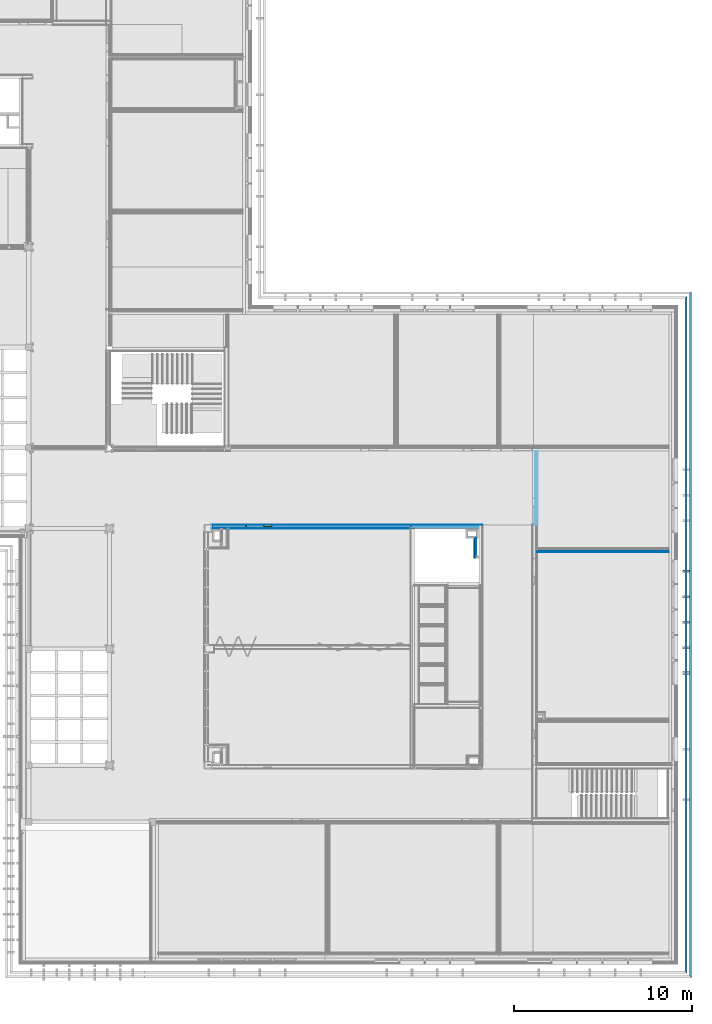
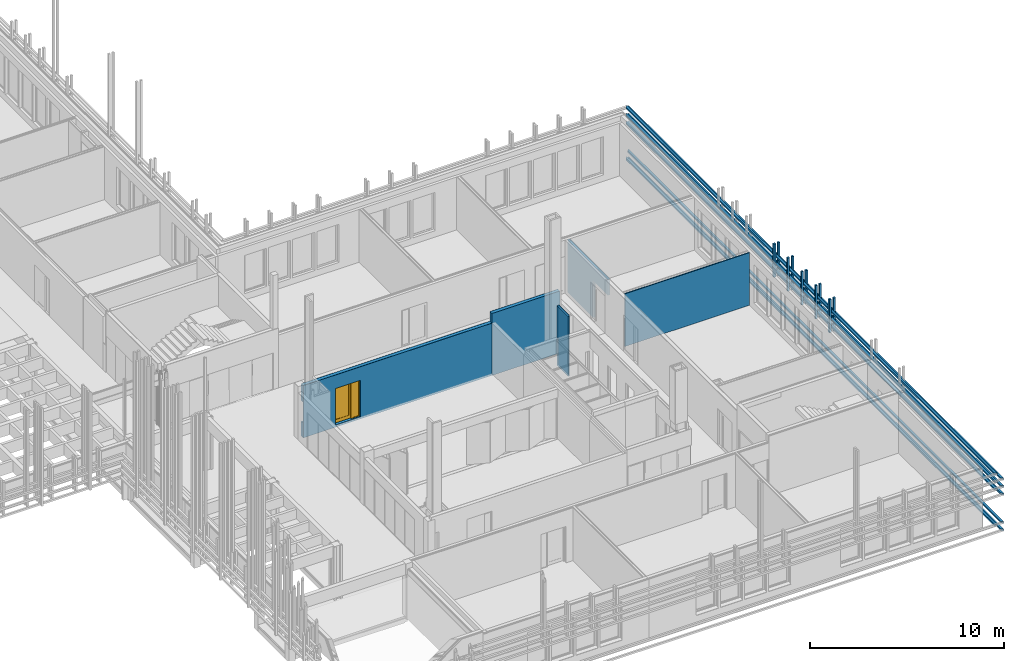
# One storey, part 120 of 139: 13 building element parts, 10 discrete accessories, 1 door, 3 openings, 5 elements without a shape of their own, plus 6 elements that do not belong to this part.
"""IFC2X3 building model written with IfcOpenShell, lengths in millimetres."""

from ifc_helpers import new_model, entity, si_unit, converted_unit, derived_unit, money_unit, direction, frame, origin_with_axes, place, context, subcontext, project, spatial, open_shell, faceted_brep, surface_model, material, material_list, type_object, element, fill, aggregate, save


model = new_model("IFC2X3")

# Units and contexts
model_context = context("Model", 3, precision=0.01, world=origin_with_axes(), true_north=direction((0.0, 1.0)))
body_context = subcontext(model_context, "Body", "Model", "MODEL_VIEW")
ifc_project = project(units=[si_unit("LENGTHUNIT", "METRE", prefix="MILLI"), si_unit("AREAUNIT", "SQUARE_METRE"), si_unit("VOLUMEUNIT", "CUBIC_METRE"), converted_unit("PLANEANGLEUNIT", "DEGREE", entity("IfcPlaneAngleMeasure", 0.0174532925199), si_unit("PLANEANGLEUNIT", "RADIAN"), dimensions=[0, 0, 0, 0, 0, 0, 0]), money_unit("EUR"), converted_unit("TIMEUNIT", "Year", entity("IfcTimeMeasure", 31556926.0), si_unit("TIMEUNIT", "SECOND"), dimensions=[0, 0, 1, 0, 0, 0, 0]), si_unit("MASSUNIT", "GRAM", prefix="KILO"), si_unit("THERMODYNAMICTEMPERATUREUNIT", "DEGREE_CELSIUS"), si_unit("LUMINOUSINTENSITYUNIT", "LUMEN"), si_unit("ENERGYUNIT", "JOULE", prefix="MEGA"), derived_unit("THERMALCONDUCTANCEUNIT", [(si_unit("POWERUNIT", "WATT"), 1), (si_unit("LENGTHUNIT", "METRE"), -1), (si_unit("THERMODYNAMICTEMPERATUREUNIT", "KELVIN"), -1)]), derived_unit("SPECIFICHEATCAPACITYUNIT", [(si_unit("ENERGYUNIT", "JOULE"), 1), (si_unit("MASSUNIT", "GRAM", prefix="KILO"), -1), (si_unit("THERMODYNAMICTEMPERATUREUNIT", "KELVIN"), -1)]), derived_unit("MASSDENSITYUNIT", [(si_unit("MASSUNIT", "GRAM", prefix="KILO"), 1), (si_unit("VOLUMEUNIT", "CUBIC_METRE"), -1)])], contexts=[model_context])

# Site, building, storey
site_placement = place(None, origin_with_axes())
site = spatial("IfcSite", under=ifc_project, at=site_placement, Name="Kolde pst 67a", CompositionType="ELEMENT")
building_placement = place(site_placement, origin_with_axes())
building = spatial("IfcBuilding", under=site, at=building_placement, Name="Riigigümnaasium", CompositionType="ELEMENT")
storey_placement = place(building_placement, frame((0.0, 0.0, 4600.0), z_axis=(0.0, 0.0, 1.0), x_axis=(1.0, 0.0, 0.0)))
storey = spatial("IfcBuildingStorey", under=building, at=storey_placement, Name="2. korrus", CompositionType="ELEMENT", Elevation=4600.0)

# Door
door_style = type_object("IfcDoorStyle", Name="Door with Sidelight on Side 2 25", ConstructionType="NOTDEFINED", OperationType="SINGLE_SWING_LEFT", ParameterTakesPrecedence=False, Sizeable=False)
wall_4_placement = place(storey_placement, frame((69744.9993636, 24239.9999727, -130.0), z_axis=(0.0, 0.0, 1.0), x_axis=(-1.0, 0.0, 0.0)))
opening_2_placement = place(wall_4_placement, frame((8555.00524137, 0.0, 130.0), z_axis=(0.0, 0.0, 1.0), x_axis=(1.0, 0.0, 0.0)))
door_placement = place(opening_2_placement, frame((750.0, 0.0, 0.0), z_axis=(0.0, 0.0, 1.0), x_axis=(-1.0, 0.0, 0.0)))
door = element("IfcDoor", 1, at=door_placement, inside=storey, type_object=door_style, Name="Siseuks", ObjectType="DOOR", OverallHeight=2300.0, OverallWidth=1500.0, context=body_context, shape_type="SurfaceModel", body=[
    faceted_brep([(1500.0, 210.0, 0.0), (1500.0, 95.0, 0.0), (1460.0, 95.0, 0.0), (1460.0, 210.0, 0.0), (1500.0, 210.0, 2260.0), (1500.0, 95.0, 2260.0), (1460.0, 95.0, 2260.0), (1460.0, 95.0, 40.0), (1460.0, 210.0, 40.0), (1460.0, 210.0, 2260.0)], [[[0, 1, 2, 3]], [[4, 5, 1, 0]], [[1, 5, 6, 7, 2]], [[3, 2, 7, 8]], [[0, 3, 8, 9, 4]], [[9, 6, 5, 4]], [[8, 7, 6, 9]]]),
    faceted_brep([(1000.0, 170.0, 0.0), (1000.0, 95.0, 0.0), (1000.0, 95.0, 2260.0), (1000.0, 170.0, 2260.0), (1012.0, 170.0, 0.0), (1012.0, 210.0, 0.0), (1040.0, 210.0, 0.0), (1040.0, 95.0, 0.0), (1040.0, 95.0, 40.0), (1040.0, 95.0, 2260.0), (1012.0, 170.0, 2260.0), (1040.0, 210.0, 2260.0), (1012.0, 210.0, 2260.0), (1040.0, 210.0, 40.0)], [[[0, 1, 2, 3]], [[4, 5, 6, 7, 1, 0]], [[7, 8, 9, 2, 1]], [[10, 3, 2, 9, 11, 12]], [[10, 4, 0, 3]], [[12, 5, 4, 10]], [[12, 11, 13, 6, 5]], [[6, 13, 8, 7]], [[13, 11, 9, 8]]]),
    faceted_brep([(1460.0, 210.0, 40.0), (1460.0, 95.0, 40.0), (1460.0, 95.0, 0.0), (1460.0, 210.0, 0.0), (1040.0, 210.0, 40.0), (1040.0, 95.0, 40.0), (1040.0, 95.0, 0.0), (1040.0, 210.0, 0.0)], [[[0, 1, 2, 3]], [[4, 5, 1, 0]], [[1, 5, 6, 2]], [[3, 2, 6, 7]], [[0, 3, 7, 4]], [[7, 6, 5, 4]]]),
    faceted_brep([(28.0, 170.0, 2260.0), (28.0, 210.0, 2260.0), (0.0, 210.0, 2260.0), (0.0, 95.0, 2260.0), (40.0, 95.0, 2260.0), (40.0, 170.0, 2260.0), (28.0, 170.0, 0.0), (28.0, 210.0, 0.0), (0.0, 210.0, 0.0), (0.0, 95.0, 0.0), (40.0, 95.0, 0.0), (40.0, 170.0, 0.0)], [[[0, 1, 2, 3, 4, 5]], [[0, 6, 7, 1]], [[7, 8, 2, 1]], [[2, 8, 9, 3]], [[3, 9, 10, 4]], [[5, 4, 10, 11]], [[5, 11, 6, 0]], [[6, 11, 10, 9, 8, 7]]]),
    faceted_brep([(1012.0, 210.0, 2272.0), (28.0, 210.0, 2272.0), (28.0, 210.0, 2260.0), (0.0, 210.0, 2260.0), (0.0, 210.0, 2300.0), (1500.0, 210.0, 2300.0), (1500.0, 210.0, 2260.0), (1460.0, 210.0, 2260.0), (1040.0, 210.0, 2260.0), (1012.0, 210.0, 2260.0), (1012.0, 170.0, 2272.0), (28.0, 170.0, 2272.0), (28.0, 170.0, 2260.0), (40.0, 170.0, 2260.0), (40.0, 95.0, 2260.0), (0.0, 95.0, 2260.0), (0.0, 95.0, 2300.0), (1500.0, 95.0, 2300.0), (1500.0, 95.0, 2260.0), (1460.0, 95.0, 2260.0), (1040.0, 95.0, 2260.0), (1012.0, 170.0, 2260.0), (1000.0, 95.0, 2260.0)], [[[0, 1, 2, 3, 4, 5, 6, 7, 8, 9]], [[0, 10, 11, 1]], [[1, 11, 12, 2]], [[12, 13, 14, 15, 3, 2]], [[4, 3, 15, 16]], [[5, 4, 16, 17]], [[6, 5, 17, 18]], [[7, 6, 18, 19]], [[8, 7, 19, 20]], [[21, 9, 8, 20, 22, 14, 13]], [[9, 21, 10, 0]], [[12, 11, 10, 21, 13]], [[14, 22, 20, 19, 18, 17, 16, 15]]]),
    faceted_brep([(28.0, 210.0, 200.0), (128.0, 210.0, 200.0), (128.0, 170.0, 200.0), (28.0, 170.0, 200.0), (28.0, 210.0, 2172.0), (128.0, 210.0, 2172.0), (128.0, 170.0, 2172.0), (28.0, 170.0, 2172.0)], [[[0, 1, 2, 3]], [[0, 4, 5, 1]], [[1, 5, 6, 2]], [[3, 2, 6, 7]], [[4, 0, 3, 7]], [[5, 4, 7, 6]]]),
    faceted_brep([(1012.0, 210.0, 200.0), (1012.0, 210.0, 2172.0), (1012.0, 170.0, 2172.0), (1012.0, 170.0, 200.0), (912.0, 210.0, 200.0), (912.0, 210.0, 2172.0), (912.0, 170.0, 2172.0), (912.0, 170.0, 200.0)], [[[0, 1, 2, 3]], [[0, 4, 5, 1]], [[1, 5, 6, 2]], [[3, 2, 6, 7]], [[4, 0, 3, 7]], [[5, 4, 7, 6]]]),
    faceted_brep([(28.0, 210.0, 0.0), (1012.0, 210.0, 0.0), (1012.0, 170.0, 0.0), (28.0, 170.0, 0.0), (28.0, 210.0, 200.0), (128.0, 210.0, 200.0), (912.0, 210.0, 200.0), (1012.0, 210.0, 200.0), (1012.0, 170.0, 200.0), (912.0, 170.0, 200.0), (128.0, 170.0, 200.0), (28.0, 170.0, 200.0)], [[[0, 1, 2, 3]], [[0, 4, 5, 6, 7, 1]], [[1, 7, 8, 2]], [[3, 2, 8, 9, 10, 11]], [[4, 0, 3, 11]], [[5, 4, 11, 10]], [[6, 5, 10, 9]], [[7, 6, 9, 8]]]),
    faceted_brep([(28.0, 210.0, 2272.0), (28.0, 210.0, 2172.0), (28.0, 170.0, 2172.0), (28.0, 170.0, 2272.0), (1012.0, 210.0, 2272.0), (1012.0, 210.0, 2172.0), (912.0, 210.0, 2172.0), (128.0, 210.0, 2172.0), (128.0, 170.0, 2172.0), (912.0, 170.0, 2172.0), (1012.0, 170.0, 2172.0), (1012.0, 170.0, 2272.0)], [[[0, 1, 2, 3]], [[0, 4, 5, 6, 7, 1]], [[1, 7, 8, 2]], [[3, 2, 8, 9, 10, 11]], [[4, 0, 3, 11]], [[5, 4, 11, 10]], [[6, 5, 10, 9]], [[7, 6, 9, 8]]]),
    surface_model("IfcShellBasedSurfaceModel", [(128.0, 196.0, 200.0), (128.0, 196.0, 2172.0), (912.0, 196.0, 2172.0), (912.0, 196.0, 200.0)], [open_shell([[[0, 1, 2, 3]]])]),
    surface_model("IfcShellBasedSurfaceModel", [(128.0, 184.0, 200.0), (912.0, 184.0, 200.0), (912.0, 184.0, 2172.0), (128.0, 184.0, 2172.0)], [open_shell([[[0, 1, 2, 3]]])]),
    surface_model("IfcShellBasedSurfaceModel", [(1460.0, 119.0, 40.0), (1040.0, 119.0, 40.0), (1040.0, 119.0, 2260.0), (1460.0, 119.0, 2260.0)], [open_shell([[[0, 1, 2, 3]]])]),
    surface_model("IfcShellBasedSurfaceModel", [(1460.0, 107.0, 40.0), (1460.0, 107.0, 2260.0), (1040.0, 107.0, 2260.0), (1040.0, 107.0, 40.0)], [open_shell([[[0, 1, 2, 3]]])]),
])

# Discrete accessories
ifc_material_1 = material(Name="_VÄLISVIIMISTLUS - sõrmjätkatud puitprussid 120x115mm, liitekohad vähemärgatavad, Platowood sõrmjätkatud kuusk või samaväärne; eeltöödeldud tuletõkkevõõbaga, tuletundlikkus B-s1, d0, Woodsafe Exterior WFX™ või samaväärne; kinnitused vastavalt EK osale")
ifc_material_list = material_list([ifc_material_1, ifc_material_1])
discrete_accessory_type_1 = type_object("IfcDiscreteAccessoryType", Name="1+paiksekaitse 4 tk nihkes 2 370 x 355")
discrete_accessory_1_placement = place(storey_placement, frame((84805.0413702, -324.997665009, -100.0), z_axis=(0.0, 0.0, 1.0), x_axis=(1.0, -1.23281040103e-07, 0.0)))
element("IfcDiscreteAccessory", 2, at=discrete_accessory_1_placement, inside=storey, type_object=discrete_accessory_type_1, material=ifc_material_list, Name="Päikesevarjestus", context=body_context, shape_type="Brep", body=[
    faceted_brep([(375.0, 37504.9695964, 347.001360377), (375.0, -374.999859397, 347.001360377), (495.0, -494.999814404, 357.5), (495.0, 37624.9696112, 357.5), (375.0, 37504.9695964, 242.5), (375.0, -374.999859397, 242.5), (495.0, -494.999814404, 242.5), (495.0, 37624.9696112, 242.5)], [[[0, 1, 2, 3]], [[4, 5, 1, 0]], [[5, 6, 2, 1]], [[3, 2, 6, 7]], [[4, 0, 3, 7]], [[7, 6, 5, 4]]]),
    faceted_brep([(625.0, 37754.9696272, 107.001360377), (625.0, -624.999765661, 107.001360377), (745.0, -744.999720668, 117.5), (745.0, 37874.969642, 117.5), (625.0, 37754.9696272, 2.5), (625.0, -624.999765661, 2.5), (745.0, -744.999720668, 2.5), (745.0, 37874.969642, 2.5)], [[[0, 1, 2, 3]], [[4, 5, 1, 0]], [[5, 6, 2, 1]], [[3, 2, 6, 7]], [[4, 0, 3, 7]], [[7, 6, 5, 4]]]),
])
discrete_accessory_2_placement = place(storey_placement, frame((84805.0413702, -324.985792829, 2630.0), z_axis=(0.0, 0.0, 1.0), x_axis=(1.0, -1.23281039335e-07, 0.0)))
element("IfcDiscreteAccessory", 3, at=discrete_accessory_2_placement, inside=storey, type_object=discrete_accessory_type_1, material=ifc_material_list, Name="Päikesevarjestus", context=body_context, shape_type="Brep", body=[
    faceted_brep([(375.0, 37504.9577242, 347.001360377), (375.0, -374.999801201, 347.001360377), (495.0, -494.999737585, 357.5), (495.0, 37624.957739, 357.5), (375.0, 37504.9577242, 242.5), (375.0, -374.999801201, 242.5), (495.0, -494.999737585, 242.5), (495.0, 37624.957739, 242.5)], [[[0, 1, 2, 3]], [[4, 5, 1, 0]], [[5, 6, 2, 1]], [[3, 2, 6, 7]], [[4, 0, 3, 7]], [[7, 6, 5, 4]]]),
    faceted_brep([(625.0, 37754.9577551, 107.001360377), (625.0, -624.999668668, 107.001360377), (745.0, -744.999605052, 117.5), (745.0, 37874.9577699, 117.5), (625.0, 37754.9577551, 2.5), (625.0, -624.999668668, 2.5), (745.0, -744.999605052, 2.5), (745.0, 37874.9577699, 2.5)], [[[0, 1, 2, 3]], [[4, 5, 1, 0]], [[5, 6, 2, 1]], [[3, 2, 6, 7]], [[4, 0, 3, 7]], [[7, 6, 5, 4]]]),
])
discrete_accessory_3_placement = place(storey_placement, frame((84805.0413702, -324.98535253, 3110.0), z_axis=(0.0, 0.0, 1.0), x_axis=(1.0, -1.23281039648e-07, 0.0)))
element("IfcDiscreteAccessory", 4, at=discrete_accessory_3_placement, inside=storey, type_object=discrete_accessory_type_1, material=ifc_material_list, Name="Päikesevarjestus", context=body_context, shape_type="Brep", body=[
    faceted_brep([(375.0, 37504.9572839, 347.001360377), (375.0, -374.99979675, 347.001360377), (495.0, -494.99973171, 357.5), (495.0, 37624.9572987, 357.5), (375.0, 37504.9572839, 242.5), (375.0, -374.99979675, 242.5), (495.0, -494.99973171, 242.5), (495.0, 37624.9572987, 242.5)], [[[0, 1, 2, 3]], [[4, 5, 1, 0]], [[5, 6, 2, 1]], [[3, 2, 6, 7]], [[4, 0, 3, 7]], [[7, 6, 5, 4]]]),
    faceted_brep([(625.0, 37754.9573148, 107.001360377), (625.0, -624.99966125, 107.001360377), (745.0, -744.999596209, 117.5), (745.0, 37874.9573296, 117.5), (625.0, 37754.9573148, 2.5), (625.0, -624.99966125, 2.5), (745.0, -744.999596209, 2.5), (745.0, 37874.9573296, 2.5)], [[[0, 1, 2, 3]], [[4, 5, 1, 0]], [[5, 6, 2, 1]], [[3, 2, 6, 7]], [[4, 0, 3, 7]], [[7, 6, 5, 4]]]),
])
discrete_accessory_4_placement = place(storey_placement, frame((84805.0413702, -324.985792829, 2150.0), z_axis=(0.0, 0.0, 1.0), x_axis=(1.0, -1.232810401e-07, 0.0)))
element("IfcDiscreteAccessory", 5, at=discrete_accessory_4_placement, inside=storey, type_object=discrete_accessory_type_1, material=ifc_material_list, Name="Päikesevarjestus", context=body_context, shape_type="Brep", body=[
    faceted_brep([(375.0, 37504.9577242, 347.001360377), (375.0, -374.9998012, 347.001360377), (495.0, -494.999737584, 357.5), (495.0, 37624.957739, 357.5), (375.0, 37504.9577242, 242.5), (375.0, -374.9998012, 242.5), (495.0, -494.999737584, 242.5), (495.0, 37624.957739, 242.5)], [[[0, 1, 2, 3]], [[4, 5, 1, 0]], [[5, 6, 2, 1]], [[3, 2, 6, 7]], [[4, 0, 3, 7]], [[7, 6, 5, 4]]]),
    faceted_brep([(625.0, 37754.9577551, 107.001360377), (625.0, -624.999668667, 107.001360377), (745.0, -744.999605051, 117.5), (745.0, 37874.9577699, 117.5), (625.0, 37754.9577551, 2.5), (625.0, -624.999668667, 2.5), (745.0, -744.999605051, 2.5), (745.0, 37874.9577699, 2.5)], [[[0, 1, 2, 3]], [[4, 5, 1, 0]], [[5, 6, 2, 1]], [[3, 2, 6, 7]], [[4, 0, 3, 7]], [[7, 6, 5, 4]]]),
])
discrete_accessory_type_2 = type_object("IfcDiscreteAccessoryType", Name="1+paiksekaitse 3 370 x 115")
for number, where, z_axis, x_axis in (
    (6, (85772.0333434, 17584.9913871, 2150.0), (0.0, 0.0, 1.0), (-1.0, 0.0, 0.0)),
    (7, (85772.0333434, 19014.9192401, 2150.0), (0.0, 0.0, 1.0), (-1.0, 0.0, 0.0)),
    (8, (85772.0333434, 16154.9913879, 2150.0), (0.0, 0.0, 1.0), (-1.0, 0.0, 0.0)),
    (9, (85772.0333434, 21874.9192166, 2150.0), (0.0, 0.0, 1.0), (-1.0, 0.0, 0.0)),
    (10, (85772.0333434, 20444.9192378, 2150.0), (0.0, 0.0, 1.0), (-1.0, 0.0, 0.0)),
):
    element("IfcDiscreteAccessory", number, at=place(storey_placement, frame(where, z_axis=z_axis, x_axis=x_axis)), inside=storey, type_object=discrete_accessory_type_2, material=ifc_material_list, Name="Päikesevarjestus", context=body_context, shape_type="Brep", body=[
        faceted_brep([(467.0, 117.5, 0.0), (347.0, 117.5, 0.0), (347.0, 117.5, 2090.0), (467.0, 117.5, 2090.0), (467.0, 2.5, 0.0), (347.0, 2.5, 0.0), (347.0, 2.5, 2090.0), (467.0, 2.5, 2090.0)], [[[0, 1, 2, 3]], [[0, 4, 5, 1]], [[1, 5, 6, 2]], [[3, 2, 6, 7]], [[4, 0, 3, 7]], [[5, 4, 7, 6]]]),
        faceted_brep([(717.0, 117.5, 0.0), (597.0, 117.5, 0.0), (597.0, 117.5, 2090.0), (717.0, 117.5, 2090.0), (717.0, 2.5, 0.0), (597.0, 2.5, 0.0), (597.0, 2.5, 2090.0), (717.0, 2.5, 2090.0)], [[[0, 1, 2, 3]], [[0, 4, 5, 1]], [[1, 5, 6, 2]], [[3, 2, 6, 7]], [[4, 0, 3, 7]], [[5, 4, 7, 6]]]),
    ])
discrete_accessory_type_3 = type_object("IfcDiscreteAccessoryType", Name="1+paiksekaitse 4 tk nihkes 1 120 x 115")
discrete_accessory_5_placement = place(storey_placement, frame((84805.0413702, -324.989314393, 380.0), z_axis=(0.0, 0.0, 1.0), x_axis=(1.0, -1.23281039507e-07, 0.0)))
element("IfcDiscreteAccessory", 11, at=discrete_accessory_5_placement, inside=storey, type_object=discrete_accessory_type_3, material=ifc_material_1, Name="Päikesevarjestus", context=body_context, shape_type="Brep", body=[
    faceted_brep([(745.0, 37874.9612914, 117.5), (625.0, 37754.9612766, 107.001360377), (625.0, -624.999592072, 107.001360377), (745.0, -744.999513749, 117.5), (745.0, 37874.9612914, 2.5), (625.0, 37754.9612766, 2.5), (625.0, -624.999592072, 2.5), (745.0, -744.999513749, 2.5)], [[[0, 1, 2, 3]], [[4, 5, 1, 0]], [[1, 5, 6, 2]], [[2, 6, 7, 3]], [[4, 0, 3, 7]], [[5, 4, 7, 6]]]),
])

# Wall, building element parts
wall_type_1 = type_object("IfcWallType", Name="SS-RB-20/6_+1 krohv 210", PredefinedType="NOTDEFINED")
wall_1_placement = place(storey_placement, frame((73779.99953, 24440.0001779, -150.0), z_axis=(0.0, 0.0, 1.0), x_axis=(-1.0, 0.0, 0.0)))
wall_1 = element("IfcWall", 12, at=wall_1_placement, inside=storey, type_object=wall_type_1, Name="Sisesein")
ifc_material_2 = material(Name="_KANDETARIND - monteeritav raudbetoon vastavalt EK osale")
building_element_part_1_placement = place(wall_1_placement, origin_with_axes())
building_element_part_1 = element("IfcBuildingElementPart", 13, at=building_element_part_1_placement, material=ifc_material_2, Name="_KANDETARIND - monteeritav raudbetoon vastavalt EK osale", context=body_context, shape_type="Brep", body=[
    faceted_brep([(4035.00016647, 200.0, 0.0), (4035.00016647, 0.0, 0.0), (0.0, 0.0, 0.0), (0.0, 200.0, 0.0), (4035.00016647, 200.0, 3900.0), (4035.00016647, 0.0, 3900.0), (0.0, 0.0, 3900.0), (0.0, 200.0, 3900.0)], [[[0, 1, 2, 3]], [[0, 4, 5, 1]], [[1, 5, 6, 2]], [[3, 2, 6, 7]], [[4, 0, 3, 7]], [[5, 4, 7, 6]]]),
])
ifc_material_3 = material(Name="_VIIMISTLUSKIHT - viimistlus vastavalt SA osale")
building_element_part_2_placement = place(wall_1_placement, origin_with_axes())
building_element_part_2 = element("IfcBuildingElementPart", 14, at=building_element_part_2_placement, material=ifc_material_3, Name="_VIIMISTLUSKIHT - viimistlus vastavalt SA osale", context=body_context, shape_type="Brep", body=[
    faceted_brep([(4035.00016647, 0.0, 0.0), (4035.00016647, -10.0, 0.0), (0.0, -10.0, 0.0), (0.0, 0.0, 0.0), (4035.00016647, 0.0, 3900.0), (4035.00016647, -10.0, 3900.0), (0.0, -10.0, 3900.0), (0.0, 0.0, 3900.0)], [[[0, 1, 2, 3]], [[0, 4, 5, 1]], [[1, 5, 6, 2]], [[3, 2, 6, 7]], [[4, 0, 3, 7]], [[5, 4, 7, 6]]]),
])
aggregate(wall_1, [building_element_part_1, building_element_part_2])

# Wall, opening, building element parts
wall_type_2 = type_object("IfcWallType", Name="SS-CLT-16/1_vill75+krohv 52 dB 300", PredefinedType="NOTDEFINED")
wall_2_placement = place(storey_placement, frame((76590.001789, 28589.9996998, -130.0), z_axis=(0.0, 0.0, 1.0), x_axis=(-1.71295679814e-06, -0.999999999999, 0.0)))
wall_2 = element("IfcWall", 15, at=wall_2_placement, inside=storey, type_object=wall_type_2, Name="Sisesein")
opening_1_placement = place(wall_2_placement, frame((3389.99972932, 0.0, 130.0), z_axis=(0.0, 0.0, 1.0), x_axis=(1.0, 0.0, 0.0)))
element("IfcOpeningElement", 16, at=opening_1_placement, cuts=wall_2, Name="Siseuks", context=body_context, shape_type="Brep", body=[
    faceted_brep([(750.0, -600.0, 2300.0), (750.0, -600.0, 0.0), (750.0, 300.0, 0.0), (750.0, 300.0, 2300.0), (-750.0, -600.0, 2300.0), (-750.0, -600.0, 0.0), (-750.0, 300.0, 0.0), (-750.0, 300.0, 2300.0)], [[[0, 1, 2, 3]], [[0, 4, 5, 1]], [[1, 5, 6, 2]], [[3, 2, 6, 7]], [[4, 0, 3, 7]], [[5, 4, 7, 6]]]),
])
building_element_part_3_placement = place(wall_2_placement, origin_with_axes())
building_element_part_3 = element("IfcBuildingElementPart", 17, at=building_element_part_3_placement, material=ifc_material_3, Name="_VIIMISTLUSKIHT - viimistlus vastavalt SA osale", context=body_context, shape_type="Brep", body=[
    faceted_brep([(2639.99972932, 300.0, 2430.0), (2639.99972932, 300.0, 130.0), (-0.000513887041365, 300.0, 130.0), (-0.000513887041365, 300.0, 3436.9), (4140.0003942, 300.0, 3436.9), (4139.99972932, 300.0, 2430.0), (2639.99972932, 290.0, 2430.0), (2639.99972932, 290.0, 130.0), (-0.00049675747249, 290.0, 130.0), (-0.00049675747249, 290.0, 3436.9), (4140.0003942, 290.0, 3436.9), (4139.99972932, 290.0, 2430.0)], [[[0, 1, 2, 3, 4, 5]], [[1, 0, 6, 7]], [[1, 7, 8, 2]], [[3, 2, 8, 9]], [[3, 9, 10, 4]], [[11, 5, 4, 10]], [[0, 5, 11, 6]], [[6, 11, 10, 9, 8, 7]]]),
])
ifc_material_4 = material(Name="_PLAATMATERJAL - tuletõkkekipsplaat, Knauf Red GKF või samaväärne")
building_element_part_4_placement = place(wall_2_placement, origin_with_axes())
building_element_part_4 = element("IfcBuildingElementPart", 18, at=building_element_part_4_placement, material=ifc_material_4, Name="_PLAATMATERJAL - tuletõkkekipsplaat, Knauf Red GKF või samaväärne", context=body_context, shape_type="Brep", body=[
    faceted_brep([(2639.99972932, 290.0, 2430.0), (2639.99972932, 290.0, 130.0), (2639.99972932, 290.0, 127.0), (-0.00049675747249, 290.0, 127.0), (-0.00049675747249, 290.0, 3436.9), (4140.00038761, 290.0, 3436.9), (4139.99972932, 290.0, 2430.0), (2639.99972932, 275.0, 2430.0), (2639.99972932, 275.0, 130.0), (2639.99972932, 275.0, 127.0), (-0.000471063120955, 275.0, 127.0), (-0.000471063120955, 275.0, 3436.9), (4140.00038761, 275.0, 3436.9), (4139.99972932, 275.0, 2430.0)], [[[0, 1, 2, 3, 4, 5, 6]], [[1, 0, 7, 8]], [[1, 8, 9, 2]], [[9, 10, 3, 2]], [[4, 3, 10, 11]], [[4, 11, 12, 5]], [[13, 6, 5, 12]], [[0, 6, 13, 7]], [[7, 13, 12, 11, 10, 9, 8]]]),
])
building_element_part_5_placement = place(wall_2_placement, origin_with_axes())
building_element_part_5 = element("IfcBuildingElementPart", 19, at=building_element_part_5_placement, material=ifc_material_4, Name="_PLAATMATERJAL - tuletõkkekipsplaat, Knauf Red GKF või samaväärne", context=body_context, shape_type="Brep", body=[
    faceted_brep([(2639.99972932, 275.0, 2430.0), (2639.99972932, 275.0, 130.0), (2639.99972932, 275.0, 127.0), (-0.000471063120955, 275.0, 127.0), (-0.000471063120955, 275.0, 3436.9), (4140.00038761, 275.0, 3436.9), (4139.99972932, 275.0, 2430.0), (2639.99972932, 260.0, 2430.0), (2639.99972932, 260.0, 130.0), (2639.99972932, 260.0, 127.0), (-0.000445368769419, 260.0, 127.0), (-0.000445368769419, 260.0, 3436.9), (4140.00038761, 260.0, 3436.9), (4139.99972932, 260.0, 2430.0)], [[[0, 1, 2, 3, 4, 5, 6]], [[1, 0, 7, 8]], [[1, 8, 9, 2]], [[9, 10, 3, 2]], [[4, 3, 10, 11]], [[4, 11, 12, 5]], [[13, 6, 5, 12]], [[0, 6, 13, 7]], [[7, 13, 12, 11, 10, 9, 8]]]),
])
ifc_material_5 = material(Name="_PLAATMATERJAL - OSB3 plaat")
building_element_part_6_placement = place(wall_2_placement, origin_with_axes())
building_element_part_6 = element("IfcBuildingElementPart", 20, at=building_element_part_6_placement, material=ifc_material_5, Name="_PLAATMATERJAL - OSB3 plaat", context=body_context, shape_type="Brep", body=[
    faceted_brep([(2639.99972932, 260.0, 2430.0), (2639.99972932, 260.0, 130.0), (2639.99972932, 260.0, 127.0), (-0.000445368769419, 260.0, 127.0), (-0.000445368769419, 260.0, 3436.9), (4140.00038761, 260.0, 3436.9), (4139.99972932, 260.0, 2430.0), (2639.99972932, 250.0, 2430.0), (2639.99972932, 250.0, 130.0), (2639.99972932, 250.0, 127.0), (-0.000428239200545, 250.0, 127.0), (-0.000428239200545, 250.0, 3436.9), (4140.00038761, 250.0, 3436.9), (4139.99972932, 250.0, 2430.0)], [[[0, 1, 2, 3, 4, 5, 6]], [[1, 0, 7, 8]], [[1, 8, 9, 2]], [[9, 10, 3, 2]], [[4, 3, 10, 11]], [[4, 11, 12, 5]], [[13, 6, 5, 12]], [[0, 6, 13, 7]], [[7, 13, 12, 11, 10, 9, 8]]]),
])
ifc_material_6 = material(Name="_KARKASS - metallkarkass CW 75/50/06 ja UW 75/40/06, samm 600, vahel mineraalvill, helineeldetegur αw = 1.0,  ISOVER ACOUSTIC 75mm või samaväärne")
building_element_part_7_placement = place(wall_2_placement, origin_with_axes())
building_element_part_7 = element("IfcBuildingElementPart", 21, at=building_element_part_7_placement, material=ifc_material_6, Name="_KARKASS - metallkarkass CW 75/50/06 ja UW 75/40/06, samm 600, vahel mineraalvill, helineeldetegur αw = 1.0,  ISOVER ACOUSTIC 75mm või samaväärne", context=body_context, shape_type="Brep", body=[
    faceted_brep([(2639.99972932, 250.0, 2430.0), (2639.99972932, 250.0, 130.0), (2639.99972932, 250.0, 127.0), (-0.000428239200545, 250.0, 127.0), (-0.000428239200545, 250.0, 3436.9), (4140.00038761, 250.0, 3436.9), (4139.99972932, 250.0, 2430.0), (2639.99972932, 175.0, 2430.0), (2639.99972932, 175.0, 130.0), (2639.99972932, 175.0, 127.0), (-0.000299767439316, 175.0, 127.0), (-0.000299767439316, 175.0, 3436.9), (4140.00038761, 175.0, 3436.9), (4139.99972932, 175.0, 2430.0)], [[[0, 1, 2, 3, 4, 5, 6]], [[1, 0, 7, 8]], [[1, 8, 9, 2]], [[9, 10, 3, 2]], [[4, 3, 10, 11]], [[4, 11, 12, 5]], [[13, 6, 5, 12]], [[0, 6, 13, 7]], [[7, 13, 12, 11, 10, 9, 8]]]),
])
ifc_material_7 = material(Name="_ÕHKVAHE")
building_element_part_8_placement = place(wall_2_placement, origin_with_axes())
building_element_part_8 = element("IfcBuildingElementPart", 22, at=building_element_part_8_placement, material=ifc_material_7, Name="_ÕHKVAHE", context=body_context, shape_type="Brep", body=[
    faceted_brep([(2639.99972932, 175.0, 2430.0), (2639.99972932, 175.0, 130.0), (2639.99972932, 175.0, 127.0), (-0.000299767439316, 175.0, 127.0), (-0.000299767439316, 175.0, 3436.9), (4140.00038761, 175.0, 3436.9), (4139.99972932, 175.0, 2430.0), (2639.99972932, 160.0, 2430.0), (2639.99972932, 160.0, 130.0), (2639.99972932, 160.0, 127.0), (-0.00027407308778, 160.0, 127.0), (-0.00027407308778, 160.0, 3436.9), (4140.00038761, 160.0, 3436.9), (4139.99972932, 160.0, 2430.0)], [[[0, 1, 2, 3, 4, 5, 6]], [[1, 0, 7, 8]], [[1, 8, 9, 2]], [[9, 10, 3, 2]], [[4, 3, 10, 11]], [[4, 11, 12, 5]], [[13, 6, 5, 12]], [[0, 6, 13, 7]], [[7, 13, 12, 11, 10, 9, 8]]]),
])
aggregate(wall_2, [building_element_part_3, building_element_part_4, building_element_part_5, building_element_part_6, building_element_part_7, building_element_part_8])

# Wall, building element parts
wall_type_3 = type_object("IfcWallType", Name="SS-PK-10/4_vill100+2värv distantsliistudega 220", PredefinedType="NOTDEFINED")
wall_3_placement = place(storey_placement, frame((84439.9992602, 22889.6815988, -130.0), z_axis=(0.0, 0.0, 1.0), x_axis=(-1.0, 0.0, 0.0)))
wall_3 = element("IfcWall", 23, at=wall_3_placement, inside=storey, type_object=wall_type_3, Name="Sisesein")
building_element_part_9_placement = place(wall_3_placement, origin_with_axes())
building_element_part_9 = element("IfcBuildingElementPart", 24, at=building_element_part_9_placement, material=ifc_material_3, Name="_VIIMISTLUSKIHT - viimistlus vastavalt SA osale", context=body_context, shape_type="Brep", body=[
    faceted_brep([(7575.20456286, -5.0, 3436.9), (159.999932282, -5.0, 3436.9), (159.999932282, -5.0, 130.0), (7575.20456286, -5.0, 130.0), (159.999932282, 0.0, 3436.9), (7575.20456286, 0.0, 3436.9), (159.999932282, 0.0, 130.0), (7575.20456286, 0.0, 130.0)], [[[0, 1, 2, 3]], [[4, 1, 0, 5]], [[1, 4, 6, 2]], [[3, 2, 6, 7]], [[5, 0, 3, 7]], [[4, 5, 7, 6]]]),
])
building_element_part_10_placement = place(wall_3_placement, origin_with_axes())
building_element_part_10 = element("IfcBuildingElementPart", 25, at=building_element_part_10_placement, material=ifc_material_4, Name="_PLAATMATERJAL - tuletõkkekipsplaat, Knauf Red GKF või samaväärne", context=body_context, shape_type="Brep", body=[
    faceted_brep([(7575.20456286, -20.0, 3436.9), (159.999932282, -20.0, 3436.9), (159.999932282, -20.0, 127.0), (7575.20456286, -20.0, 127.0), (159.999932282, -5.0, 3436.9), (7575.20456286, -5.0, 3436.9), (159.999932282, -5.0, 127.0), (7575.20456286, -5.0, 127.0)], [[[0, 1, 2, 3]], [[4, 1, 0, 5]], [[1, 4, 6, 2]], [[3, 2, 6, 7]], [[5, 0, 3, 7]], [[4, 5, 7, 6]]]),
])
building_element_part_11_placement = place(wall_3_placement, origin_with_axes())
building_element_part_11 = element("IfcBuildingElementPart", 26, at=building_element_part_11_placement, material=ifc_material_5, Name="_PLAATMATERJAL - OSB3 plaat", context=body_context, shape_type="Brep", body=[
    faceted_brep([(7575.20456286, -35.0, 3436.9), (159.999932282, -35.0, 3436.9), (159.999932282, -35.0, 127.0), (7575.20456286, -35.0, 127.0), (159.999932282, -20.0, 3436.9), (7575.20456286, -20.0, 3436.9), (159.999932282, -20.0, 127.0), (7575.20456286, -20.0, 127.0)], [[[0, 1, 2, 3]], [[4, 1, 0, 5]], [[1, 4, 6, 2]], [[3, 2, 6, 7]], [[5, 0, 3, 7]], [[4, 5, 7, 6]]]),
])
ifc_material_8 = material(Name="_KARKASS- distantasliist")
building_element_part_12_placement = place(wall_3_placement, origin_with_axes())
building_element_part_12 = element("IfcBuildingElementPart", 27, at=building_element_part_12_placement, material=ifc_material_8, Name="_KARKASS- distantasliist", context=body_context, shape_type="Brep", body=[
    faceted_brep([(7575.20456286, -60.0, 3436.9), (159.999932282, -60.0, 3436.9), (159.999932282, -60.0, 127.0), (7575.20456286, -60.0, 127.0), (159.999932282, -35.0, 3436.9), (7575.20456286, -35.0, 3436.9), (159.999932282, -35.0, 127.0), (7575.20456286, -35.0, 127.0)], [[[0, 1, 2, 3]], [[4, 1, 0, 5]], [[1, 4, 6, 2]], [[3, 2, 6, 7]], [[5, 0, 3, 7]], [[4, 5, 7, 6]]]),
])
aggregate(wall_3, [building_element_part_9, building_element_part_10, building_element_part_11, building_element_part_12])

# Wall, opening
wall_type_4 = type_object("IfcWallType", Name="SS-RB-20/1_+2 krohv 55 dB 220", PredefinedType="NOTDEFINED")
wall_4 = element("IfcWall", 28, at=wall_4_placement, inside=storey, type_object=wall_type_4, Name="Sisesein")
opening_2 = element("IfcOpeningElement", 29, at=opening_2_placement, cuts=wall_4, Name="Siseuks", context=body_context, shape_type="Brep", body=[
    faceted_brep([(750.0, -440.0, 2300.0), (750.0, -440.0, 0.0), (750.0, 220.0, 0.0), (750.0, 220.0, 2300.0), (-750.0, -440.0, 2300.0), (-750.0, -440.0, 0.0), (-750.0, 220.0, 0.0), (-750.0, 220.0, 2300.0)], [[[0, 1, 2, 3]], [[0, 4, 5, 1]], [[1, 5, 6, 2]], [[3, 2, 6, 7]], [[4, 0, 3, 7]], [[5, 4, 7, 6]]]),
])

fill(opening_2, door)

# Opening
opening_3_placement = place(wall_4_placement, frame((69744.9993636, 24239.9999727, -4470.0), z_axis=(0.0, 0.0, 1.0), x_axis=(-1.0, 0.0, 0.0)))
element("IfcOpeningElement", 30, at=opening_3_placement, cuts=wall_4, Name="Tulekustuti nišš vastavalt SA osale", ObjectType="OPENING", context=body_context, shape_type="Brep", body=[
    faceted_brep([(58789.9488577, 24449.9999727, 5380.0), (58789.9488577, 24449.9999727, 6700.0), (58789.9488577, 24249.9999727, 6700.0), (58789.9488577, 24249.9999727, 5380.0), (58539.9488577, 24449.9999727, 5380.0), (58539.9488577, 24449.9999727, 6700.0), (58539.9488577, 24249.9999727, 6700.0), (58539.9488577, 24249.9999727, 5380.0)], [[[0, 1, 2, 3]], [[0, 4, 5, 1]], [[1, 5, 6, 2]], [[3, 2, 6, 7]], [[4, 0, 3, 7]], [[5, 4, 7, 6]]]),
])

# Building element part
building_element_part_13_placement = place(wall_4_placement, origin_with_axes())
building_element_part_13 = element("IfcBuildingElementPart", 31, at=building_element_part_13_placement, material=ifc_material_3, Name="_VIIMISTLUSKIHT - viimistlus vastavalt SA osale", context=body_context, shape_type="Brep", body=[
    faceted_brep([(11205.0505058, 0.0, 0.0), (11205.0505058, 0.0, 3280.0), (0.0, 0.0, 3280.0), (0.0, 0.0, 0.0), (9305.00524137, 0.0, 2430.0), (9305.00524137, 0.0, 130.0), (7805.00524137, 0.0, 130.0), (7805.00524137, 0.0, 2430.0), (11205.0505058, 10.0, 3280.0), (11205.0505058, 10.0, 0.0), (0.0, 10.0, 3280.0), (0.0, 10.0, 0.0), (9305.00524137, 10.0, 130.0), (9305.00524137, 10.0, 2430.0), (7805.00524137, 10.0, 130.0), (7805.00524137, 10.0, 2430.0)], [[[0, 1, 2, 3], [4, 5, 6, 7]], [[8, 1, 0, 9]], [[1, 8, 10, 2]], [[2, 10, 11, 3]], [[9, 0, 3, 11]], [[12, 5, 4, 13]], [[14, 6, 5, 12]], [[15, 7, 6, 14]], [[13, 4, 7, 15]], [[8, 9, 11, 10], [14, 12, 13, 15]]]),
])

building_element_part_14_placement = place(wall_4_placement, origin_with_axes())
building_element_part_14 = element("IfcBuildingElementPart", 32, at=building_element_part_14_placement, material=ifc_material_2, Name="_KANDETARIND - monteeritav raudbetoon vastavalt EK osale", context=body_context, shape_type="Brep", body=[
    faceted_brep([(11205.0505058, -200.0, 0.0), (11205.0505058, -200.0, 910.0), (10955.0505058, -200.0, 910.0), (10955.0505058, -200.0, 2230.0), (11205.0505058, -200.0, 2230.0), (11205.0505058, -200.0, 3280.0), (0.0, -200.0, 3280.0), (0.0, -200.0, 0.0), (9305.00524137, -200.0, 2430.0), (9305.00524137, -200.0, 130.0), (7805.00524137, -200.0, 130.0), (7805.00524137, -200.0, 2430.0), (11205.0505058, 0.0, 3280.0), (11205.0505058, -10.0, 2230.0), (11205.0505058, -10.0, 910.0), (11205.0505058, 0.0, 0.0), (10955.0505058, -10.0, 910.0), (10955.0505058, -10.0, 2230.0), (0.0, 0.0, 3280.0), (0.0, 0.0, 0.0), (9305.00524137, 0.0, 130.0), (9305.00524137, 0.0, 2430.0), (7805.00524137, 0.0, 130.0), (7805.00524137, 0.0, 2430.0)], [[[0, 1, 2, 3, 4, 5, 6, 7], [8, 9, 10, 11]], [[12, 5, 4, 13, 14, 1, 0, 15]], [[1, 14, 16, 2]], [[3, 2, 16, 17]], [[13, 4, 3, 17]], [[5, 12, 18, 6]], [[7, 6, 18, 19]], [[15, 0, 7, 19]], [[20, 9, 8, 21]], [[22, 10, 9, 20]], [[23, 11, 10, 22]], [[21, 8, 11, 23]], [[14, 13, 17, 16]], [[12, 15, 19, 18], [22, 20, 21, 23]]]),
])

building_element_part_15_placement = place(wall_4_placement, origin_with_axes())
building_element_part_15 = element("IfcBuildingElementPart", 33, at=building_element_part_15_placement, material=ifc_material_3, Name="_VIIMISTLUSKIHT - viimistlus vastavalt SA osale", context=body_context, shape_type="Brep", body=[
    faceted_brep([(11205.0505058, -210.0, 2230.0), (11205.0505058, -210.0, 3280.0), (0.0, -210.0, 3280.0), (0.0, -210.0, 0.0), (11205.0505058, -210.0, 0.0), (11205.0505058, -210.0, 910.0), (10955.0505058, -210.0, 910.0), (10955.0505058, -210.0, 2230.0), (9305.00524137, -210.0, 2430.0), (9305.00524137, -210.0, 130.0), (7805.00524137, -210.0, 130.0), (7805.00524137, -210.0, 2430.0), (11205.0505058, -200.0, 3280.0), (11205.0505058, -200.0, 2230.0), (0.0, -200.0, 3280.0), (0.0, -200.0, 0.0), (11205.0505058, -200.0, 0.0), (11205.0505058, -200.0, 910.0), (10955.0505058, -200.0, 910.0), (10955.0505058, -200.0, 2230.0), (9305.00524137, -200.0, 130.0), (9305.00524137, -200.0, 2430.0), (7805.00524137, -200.0, 130.0), (7805.00524137, -200.0, 2430.0)], [[[0, 1, 2, 3, 4, 5, 6, 7], [8, 9, 10, 11]], [[12, 1, 0, 13]], [[1, 12, 14, 2]], [[3, 2, 14, 15]], [[16, 4, 3, 15]], [[17, 5, 4, 16]], [[5, 17, 18, 6]], [[7, 6, 18, 19]], [[13, 0, 7, 19]], [[20, 9, 8, 21]], [[22, 10, 9, 20]], [[23, 11, 10, 22]], [[21, 8, 11, 23]], [[12, 13, 19, 18, 17, 16, 15, 14], [22, 20, 21, 23]]]),
])

aggregate(wall_4, [building_element_part_13, building_element_part_14, building_element_part_15])

# Wall, building element parts
wall_type_5 = type_object("IfcWallType", Name="SS-MK-10/6_šahti sein+krohv 40 dB 135", PredefinedType="NOTDEFINED")
wall_5_placement = place(storey_placement, frame((73429.99953, 23689.9992231, -415.0), z_axis=(0.0, 0.0, 1.0), x_axis=(0.0, -1.0, 0.0)))
wall_5 = element("IfcWall", 34, at=wall_5_placement, inside=storey, type_object=wall_type_5, Name="Sisesein")
building_element_part_16_placement = place(wall_5_placement, origin_with_axes())
building_element_part_16 = element("IfcBuildingElementPart", 35, at=building_element_part_16_placement, material=ifc_material_3, Name="_VIIMISTLUSKIHT - viimistlus vastavalt SA osale", context=body_context, shape_type="Brep", body=[
    faceted_brep([(0.0, -10.0, 3750.0), (1010.0, -10.0, 3750.0), (1010.0, 0.0, 3750.0), (0.0, 0.0, 3750.0), (0.0, -10.0, 0.0), (1010.0, -10.0, 0.0), (1010.0, 0.0, 0.0), (0.0, 0.0, 0.0)], [[[0, 1, 2, 3]], [[4, 5, 1, 0]], [[6, 2, 1, 5]], [[3, 2, 6, 7]], [[7, 4, 0, 3]], [[7, 6, 5, 4]]]),
])
ifc_material_9 = material(Name="_PLAATMATERJAL - kipsplaat veekindel")
building_element_part_17_placement = place(wall_5_placement, origin_with_axes())
building_element_part_17 = element("IfcBuildingElementPart", 36, at=building_element_part_17_placement, material=ifc_material_9, Name="_PLAATMATERJAL - kipsplaat veekindel", context=body_context, shape_type="Brep", body=[
    faceted_brep([(0.0, -22.5, 3750.0), (1022.5, -22.5, 3750.0), (1022.5, -10.0, 3750.0), (0.0, -10.0, 3750.0), (0.0, -22.5, 0.0), (1022.5, -22.5, 0.0), (1022.5, -10.0, 0.0), (0.0, -10.0, 0.0)], [[[0, 1, 2, 3]], [[4, 5, 1, 0]], [[6, 2, 1, 5]], [[3, 2, 6, 7]], [[7, 4, 0, 3]], [[7, 6, 5, 4]]]),
])
building_element_part_18_placement = place(wall_5_placement, origin_with_axes())
building_element_part_18 = element("IfcBuildingElementPart", 37, at=building_element_part_18_placement, material=ifc_material_9, Name="_PLAATMATERJAL - kipsplaat veekindel", context=body_context, shape_type="Brep", body=[
    faceted_brep([(0.0, -35.0, 3750.0), (1035.0, -35.0, 3750.0), (1035.0, -22.5, 3750.0), (0.0, -22.5, 3750.0), (0.0, -35.0, 0.0), (1035.0, -35.0, 0.0), (1035.0, -22.5, 0.0), (0.0, -22.5, 0.0)], [[[0, 1, 2, 3]], [[4, 5, 1, 0]], [[6, 2, 1, 5]], [[3, 2, 6, 7]], [[7, 4, 0, 3]], [[7, 6, 5, 4]]]),
])
ifc_material_10 = material(Name="_KARKASS - metallkarkass CW 100/50/06 ja UW 100/40/06, samm 600, vahel mineraalvill, helineeldetegur αw = 1.0,  ISOVER ACOUSTIC 100mm või samaväärne")
building_element_part_19_placement = place(wall_5_placement, origin_with_axes())
building_element_part_19 = element("IfcBuildingElementPart", 38, at=building_element_part_19_placement, material=ifc_material_10, Name="_KARKASS - metallkarkass CW 100/50/06 ja UW 100/40/06, samm 600, vahel mineraalvill, helineeldetegur αw = 1.0,  ISOVER ACOUSTIC 100mm või samaväärne", context=body_context, shape_type="Brep", body=[
    faceted_brep([(0.0, -135.0, 3750.0), (1135.0, -135.0, 3750.0), (1135.0, -35.0, 3750.0), (0.0, -35.0, 3750.0), (0.0, -135.0, 0.0), (1135.0, -135.0, 0.0), (1135.0, -35.0, 0.0), (0.0, -35.0, 0.0)], [[[0, 1, 2, 3]], [[4, 5, 1, 0]], [[6, 2, 1, 5]], [[3, 2, 6, 7]], [[7, 4, 0, 3]], [[7, 6, 5, 4]]]),
])
aggregate(wall_5, [building_element_part_16, building_element_part_17, building_element_part_18, building_element_part_19])

save(model, "model.ifc")
